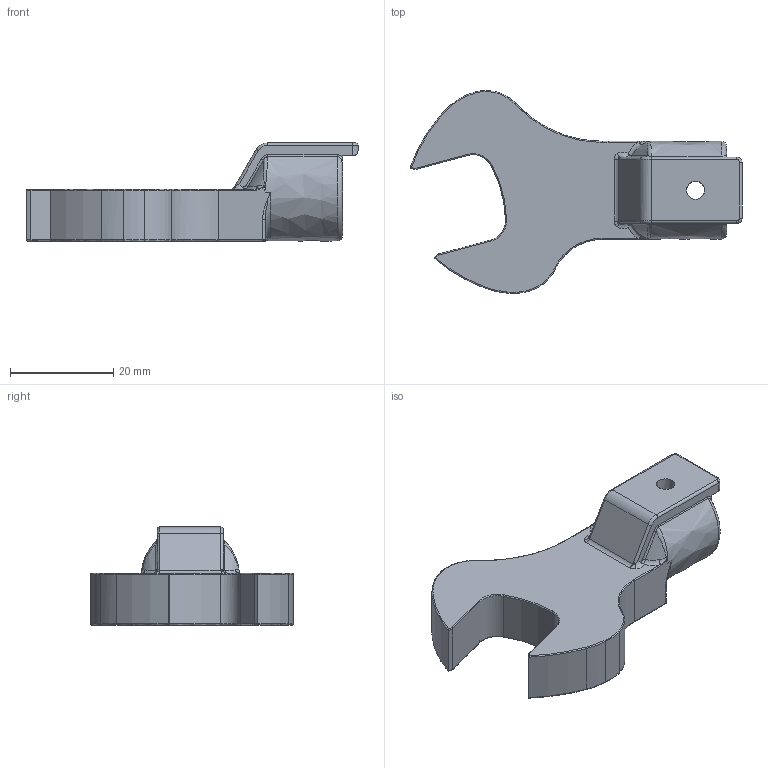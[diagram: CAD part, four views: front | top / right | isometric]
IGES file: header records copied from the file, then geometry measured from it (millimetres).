
Global section: file name: SH12DX17; native system: Autodesk Inventor 2016; preprocessor: unknown; author: Q510A; date: 20151029.190901; units: millimetre
Bounding box: 64.34 x 39.3 x 19 mm (x, y, z)
Volume: 12937.4 mm3; surface area: 5451.3 mm2
Topology: 1 solids, 1 shells, 145 faces, 363 edges, 209 vertices
Faces by surface type: bspline 145
